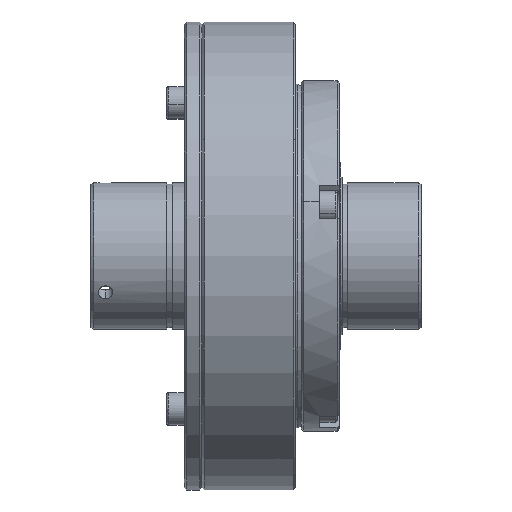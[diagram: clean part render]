
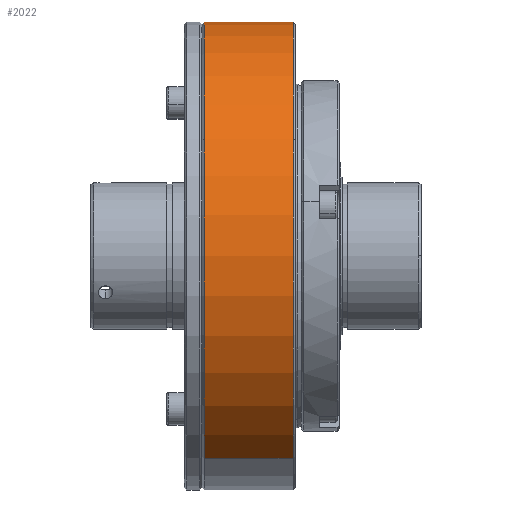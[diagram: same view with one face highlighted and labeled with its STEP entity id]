
A CAD part, top view. The second image highlights one B-rep face of the part: STEP entity #2022.
In plain terms, the highlighted cylindrical face has radius 40 mm (diameter 80 mm), a partial arc.
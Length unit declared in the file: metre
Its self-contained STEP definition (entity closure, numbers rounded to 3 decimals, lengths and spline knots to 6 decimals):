
#616 = AXIS2_PLACEMENT_3D ( 'NONE', #22608, #15526, #29091 ) ;
#1498 = AXIS2_PLACEMENT_3D ( 'NONE', #11666, #20657, #9457 ) ;
#1783 = CARTESIAN_POINT ( 'NONE',  ( 0.019, 0.034641, -0.02 ) ) ;
#2022 = ADVANCED_FACE ( 'NONE', ( #20250 ), #27480, .T. ) ;
#2794 = AXIS2_PLACEMENT_3D ( 'NONE', #25441, #18972, #14251 ) ;
#3208 = LINE ( 'NONE', #12211, #8867 ) ;
#3748 = ORIENTED_EDGE ( 'NONE', *, *, #4222, .T. ) ;
#4222 = EDGE_CURVE ( 'NONE', #16348, #19711, #21290, .T. ) ;
#6557 = CARTESIAN_POINT ( 'NONE',  ( 0.0346, 0., 0. ) ) ;
#6649 = CARTESIAN_POINT ( 'NONE',  ( 0.0194, -0.034641, 0.02 ) ) ;
#7170 = EDGE_CURVE ( 'NONE', #7760, #16348, #20995, .T. ) ;
#7760 = VERTEX_POINT ( 'NONE', #17886 ) ;
#7978 = ORIENTED_EDGE ( 'NONE', *, *, #20856, .T. ) ;
#8198 = ORIENTED_EDGE ( 'NONE', *, *, #16341, .T. ) ;
#8867 = VECTOR ( 'NONE', #10003, 1. ) ;
#8868 = EDGE_CURVE ( 'NONE', #7760, #13016, #3208, .T. ) ;
#9225 = ORIENTED_EDGE ( 'NONE', *, *, #7170, .T. ) ;
#9314 = CARTESIAN_POINT ( 'NONE',  ( 0.0194, 0.02, 0.034641 ) ) ;
#9457 = DIRECTION ( 'NONE',  ( 0., -0.866, 0.5 ) ) ;
#9667 = VERTEX_POINT ( 'NONE', #9314 ) ;
#9706 = ORIENTED_EDGE ( 'NONE', *, *, #8868, .F. ) ;
#10003 = DIRECTION ( 'NONE',  ( -1., 0., 0. ) ) ;
#10091 = VERTEX_POINT ( 'NONE', #20292 ) ;
#10140 = EDGE_CURVE ( 'NONE', #10091, #9667, #23977, .T. ) ;
#11666 = CARTESIAN_POINT ( 'NONE',  ( 0.0346, 0., 0. ) ) ;
#12211 = CARTESIAN_POINT ( 'NONE',  ( 0.019, -0.034641, 0.02 ) ) ;
#13016 = VERTEX_POINT ( 'NONE', #6649 ) ;
#14251 = DIRECTION ( 'NONE',  ( 0., -0.866, 0.5 ) ) ;
#14592 = CARTESIAN_POINT ( 'NONE',  ( 0.0346, 0.02, 0.034641 ) ) ;
#14919 = DIRECTION ( 'NONE',  ( -1., 0., 0. ) ) ;
#15526 = DIRECTION ( 'NONE',  ( -1., 0., 0. ) ) ;
#15811 = DIRECTION ( 'NONE',  ( 0., -0.866, 0.5 ) ) ;
#16341 = EDGE_CURVE ( 'NONE', #9667, #13016, #24050, .T. ) ;
#16348 = VERTEX_POINT ( 'NONE', #14592 ) ;
#16732 = AXIS2_PLACEMENT_3D ( 'NONE', #6557, #28979, #17918 ) ;
#17886 = CARTESIAN_POINT ( 'NONE',  ( 0.0346, -0.034641, 0.02 ) ) ;
#17918 = DIRECTION ( 'NONE',  ( 0., -0.866, 0.5 ) ) ;
#18036 = CARTESIAN_POINT ( 'NONE',  ( 0.0194, 0., 0. ) ) ;
#18972 = DIRECTION ( 'NONE',  ( 1., 0., 0. ) ) ;
#19144 = EDGE_LOOP ( 'NONE', ( #3748, #7978, #24235, #8198, #9706, #9225 ) ) ;
#19304 = CARTESIAN_POINT ( 'NONE',  ( 0.0346, 0.034641, -0.02 ) ) ;
#19711 = VERTEX_POINT ( 'NONE', #19304 ) ;
#20250 = FACE_OUTER_BOUND ( 'NONE', #19144, .T. ) ;
#20292 = CARTESIAN_POINT ( 'NONE',  ( 0.0194, 0.034641, -0.02 ) ) ;
#20657 = DIRECTION ( 'NONE',  ( -1., 0., 0. ) ) ;
#20856 = EDGE_CURVE ( 'NONE', #19711, #10091, #22281, .T. ) ;
#20995 = CIRCLE ( 'NONE', #16732, 0.04 ) ;
#21223 = DIRECTION ( 'NONE',  ( 1., 0., 0. ) ) ;
#21290 = CIRCLE ( 'NONE', #1498, 0.04 ) ;
#22281 = LINE ( 'NONE', #1783, #26656 ) ;
#22608 = CARTESIAN_POINT ( 'NONE',  ( 0.019, 0., 0. ) ) ;
#23977 = CIRCLE ( 'NONE', #2794, 0.04 ) ;
#24050 = CIRCLE ( 'NONE', #24521, 0.04 ) ;
#24235 = ORIENTED_EDGE ( 'NONE', *, *, #10140, .T. ) ;
#24521 = AXIS2_PLACEMENT_3D ( 'NONE', #18036, #21223, #15811 ) ;
#25441 = CARTESIAN_POINT ( 'NONE',  ( 0.0194, 0., 0. ) ) ;
#26656 = VECTOR ( 'NONE', #14919, 1. ) ;
#27480 = CYLINDRICAL_SURFACE ( 'NONE', #616, 0.04 ) ;
#28979 = DIRECTION ( 'NONE',  ( -1., 0., 0. ) ) ;
#29091 = DIRECTION ( 'NONE',  ( 0., -0.866, 0.5 ) ) ;
